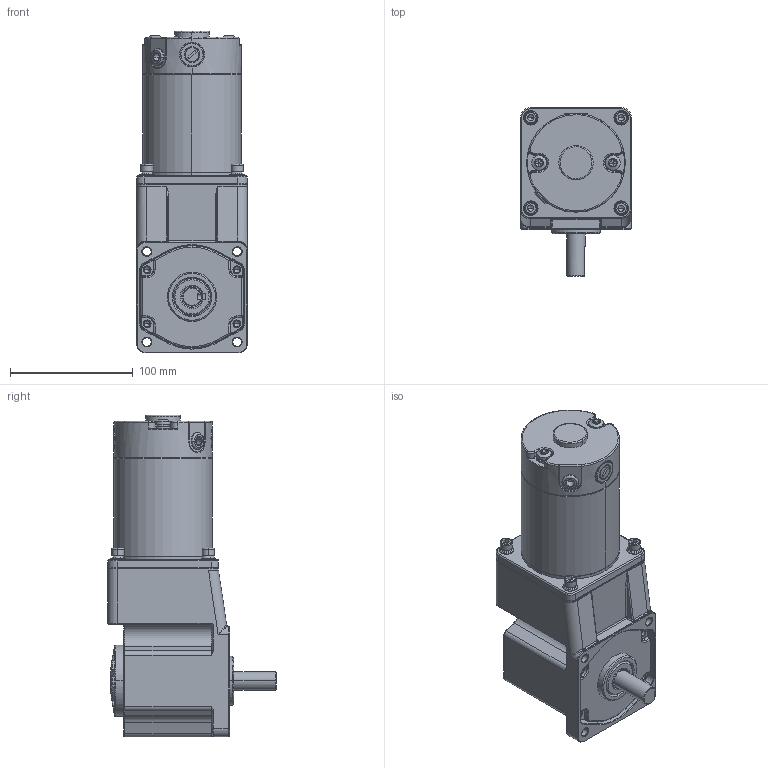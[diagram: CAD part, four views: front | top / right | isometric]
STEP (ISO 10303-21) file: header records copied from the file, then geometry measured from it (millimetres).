
FILE_DESCRIPTION (( 'STEP AP214' ), '1' );
FILE_NAME ('90-80»ú¿ÇRT.STEP', '2021-07-23T07:58:17', ( '' ), ( '' ), 'SwSTEP 2.0', 'SolidWorks 2021', '' );
FILE_SCHEMA (( 'AUTOMOTIVE_DESIGN' ));
Length unit declared in the file: millimetre
Products named in the file (9): TANDIAN_1_2; 5RT; LUDING_1_2; 90-80儂褲RT; JIKE-80_1; QIGAI_2; PENGDIAN_1_2; HOUGAI-80-1_1_2; 90-40w_asm_1
Assembly tree (11 placements, depth 3):
  90-80儂褲RT
    90-40w_asm_1
      TANDIAN_1_2  x2
      PENGDIAN_1_2  x2
      JIKE-80_1
      HOUGAI-80-1_1_2
      QIGAI_2
      LUDING_1_2  x2
    5RT
Bounding box: 90 x 137 x 261.5 mm (x, y, z)
Volume: 947766 mm3; surface area: 245315.6 mm2
Topology: 26 solids, 28 shells, 2254 faces, 5455 edges, 3230 vertices
Faces by surface type: cylinder 635, plane 541, cone 424, torus 291, bspline 287, sphere 76
Entity records: 92438 total; most frequent: CARTESIAN_POINT 43871, ORIENTED_EDGE 10474, DIRECTION 9602, EDGE_CURVE 5237, AXIS2_PLACEMENT_3D 3932, VERTEX_POINT 3135, EDGE_LOOP 2300, ADVANCED_FACE 2192
